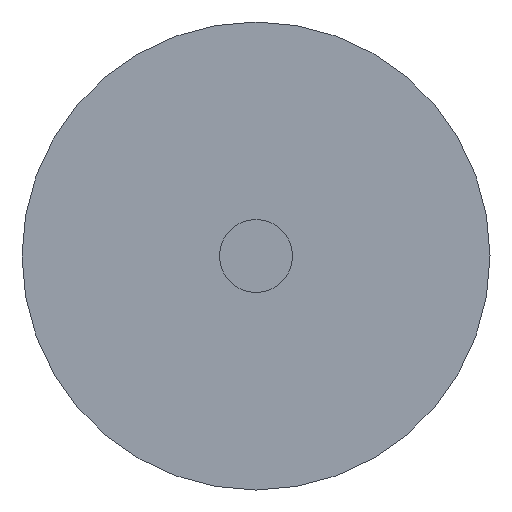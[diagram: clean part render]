
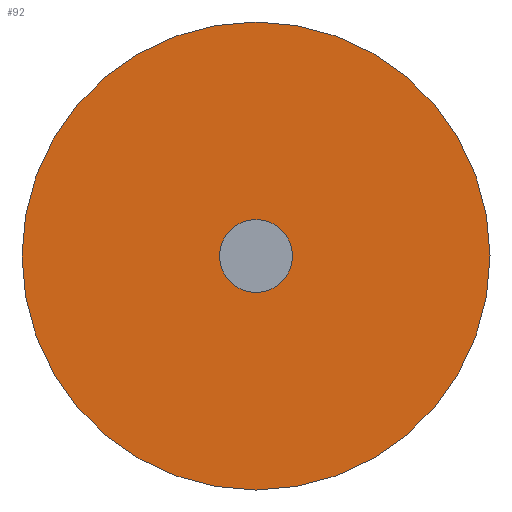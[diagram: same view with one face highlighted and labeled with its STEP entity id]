
A CAD part, left-side view. The second image highlights one B-rep face of the part: STEP entity #92.
In plain terms, the highlighted planar face has unit normal (-1, 0, 0).
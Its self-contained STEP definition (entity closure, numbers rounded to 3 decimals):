
#16=PLANE('',#107);
#26=FACE_OUTER_BOUND('',#36,.T.);
#36=EDGE_LOOP('',(#66));
#47=CIRCLE('',#106,2.605);
#53=VERTEX_POINT('',#155);
#59=EDGE_CURVE('',#53,#53,#47,.T.);
#66=ORIENTED_EDGE('',*,*,#59,.T.);
#92=ADVANCED_FACE('',(#26),#16,.F.);
#106=AXIS2_PLACEMENT_3D('',#156,#125,#126);
#107=AXIS2_PLACEMENT_3D('',#157,#127,#128);
#125=DIRECTION('center_axis',(-1.,0.,0.));
#126=DIRECTION('ref_axis',(0.,-1.,0.));
#127=DIRECTION('center_axis',(1.,0.,0.));
#128=DIRECTION('ref_axis',(0.,0.,-1.));
#155=CARTESIAN_POINT('',(0.,2.605,0.));
#156=CARTESIAN_POINT('Origin',(0.,0.,0.));
#157=CARTESIAN_POINT('Origin',(0.,0.,0.));
